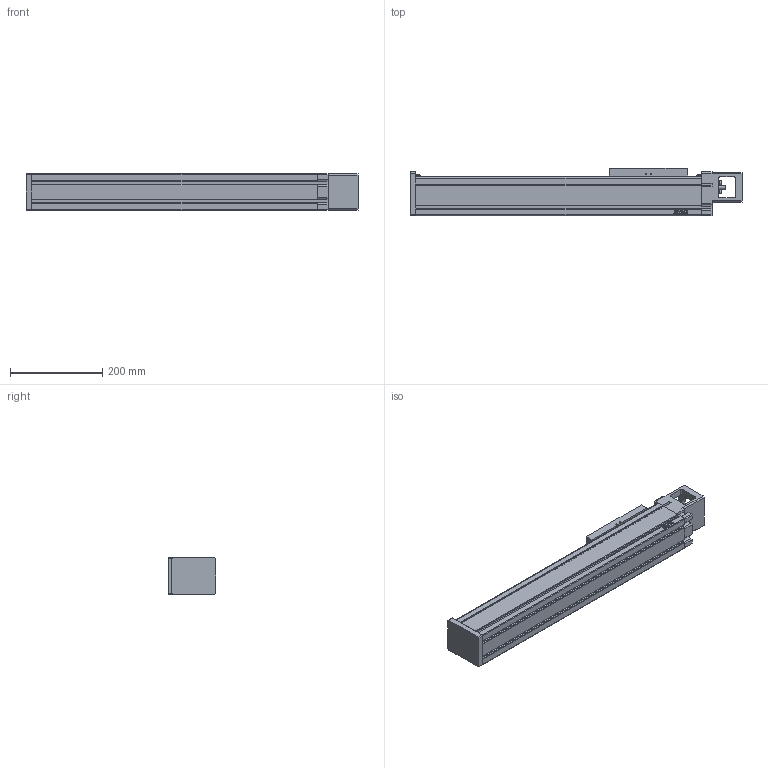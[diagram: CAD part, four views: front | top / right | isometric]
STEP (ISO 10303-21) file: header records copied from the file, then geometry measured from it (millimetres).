
FILE_DESCRIPTION(/* description */ (''),/* implementation_level */ '2;1');
FILE_NAME(/* name */ 'D:\混合母檔20191031\混和母檔\混和母檔\bin\Debug\Download\3D\KU80-20C-400AF0\KU80-20C-400AF0.stp',/* time_stamp */ '2019-11-04T17:20:43+08:00',/* author */ ('user'),/* organization */ (''),/* preprocessor_version */ 'ST-DEVELOPER v16.13',/* originating_system */ 'Autodesk Inventor 2018',/* authorisation */ '');
FILE_SCHEMA (('AUTOMOTIVE_DESIGN { 1 0 10303 214 3 1 1 }'));
Length unit declared in the file: millimetre
Products named in the file (3): KU80-20C-400AF0; KU80-F0-BP; KU80-SL
Assembly tree (2 placements, depth 2):
  KU80-20C-400AF0
    KU80-F0-BP
    KU80-SL
Bounding box: 720 x 103 x 80 mm (x, y, z)
Volume: 4528522 mm3; surface area: 404931 mm2
Topology: 2 solids, 10 shells, 862 faces, 2315 edges, 1508 vertices
Faces by surface type: plane 509, bspline 136, cylinder 104, cone 81, torus 28, sphere 4
Full cylindrical faces by diameter (mm): 2.459 x4, 2.729 x4, 3 x4, 3.242 x4, 3.5 x4, 4.134 x16, 5 x4, 5.5 x8, 5.6 x2, 8 x1, 8.5 x4, 12 x1, 46.5 x1
Entity records: 27990 total; most frequent: CARTESIAN_POINT 7413, ORIENTED_EDGE 4362, DIRECTION 3790, EDGE_CURVE 2181, VERTEX_POINT 1469, LINE 1298, VECTOR 1298, AXIS2_PLACEMENT_3D 1246
